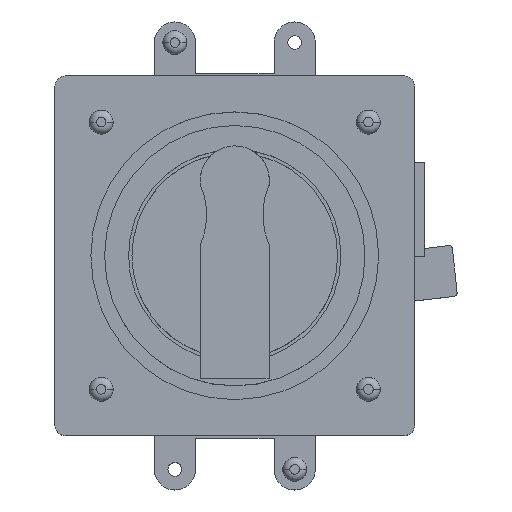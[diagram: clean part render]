
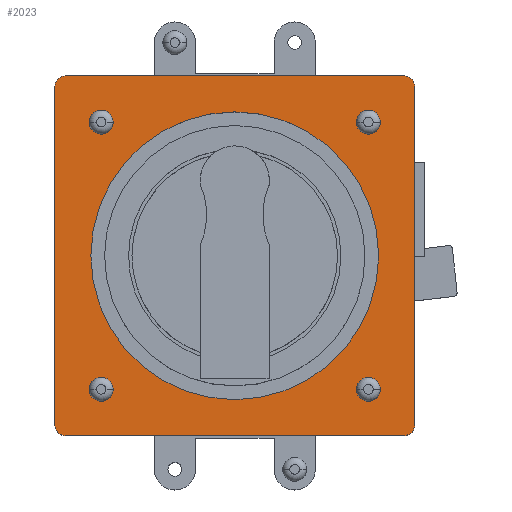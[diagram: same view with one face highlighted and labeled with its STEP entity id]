
A CAD part, top view. The second image highlights one B-rep face of the part: STEP entity #2023.
In plain terms, the highlighted planar face has unit normal (0, 0, 1).
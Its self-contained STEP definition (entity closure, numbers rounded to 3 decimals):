
#1153 = VERTEX_POINT( '', #3273 );
#1185 = EDGE_CURVE( '', #3057, #1779, #3309, .T. );
#1187 = VERTEX_POINT( '', #3311 );
#1195 = VERTEX_POINT( '', #3319 );
#1209 = VERTEX_POINT( '', #3334 );
#1225 = EDGE_CURVE( '', #1299, #2479, #3351, .T. );
#1233 = VERTEX_POINT( '', #3359 );
#1299 = VERTEX_POINT( '', #3427 );
#1331 = VERTEX_POINT( '', #3463 );
#1447 = EDGE_CURVE( '', #2479, #2481, #3587, .T. );
#1509 = EDGE_CURVE( '', #2681, #3033, #3667, .T. );
#1779 = VERTEX_POINT( '', #3960 );
#1873 = VERTEX_POINT( '', #4066 );
#1983 = VERTEX_POINT( '', #4194 );
#1999 = EDGE_CURVE( '', #1195, #1331, #4214, .T. );
#2021 = VERTEX_POINT( '', #4238 );
#2023 = ADVANCED_FACE( '', ( #4240, #4241, #4242, #4243, #4244, #4245 ), #4246, .T. );
#2113 = EDGE_CURVE( '', #2971, #1873, #4350, .T. );
#2127 = EDGE_CURVE( '', #1779, #3057, #4365, .T. );
#2161 = EDGE_CURVE( '', #1233, #1209, #4400, .T. );
#2181 = VERTEX_POINT( '', #4420 );
#2203 = EDGE_CURVE( '', #1209, #1233, #4446, .T. );
#2253 = EDGE_CURVE( '', #2181, #1983, #4505, .T. );
#2341 = EDGE_CURVE( '', #1187, #1195, #4600, .T. );
#2409 = EDGE_CURVE( '', #2021, #1187, #4674, .T. );
#2479 = VERTEX_POINT( '', #4749 );
#2481 = VERTEX_POINT( '', #4751 );
#2561 = EDGE_CURVE( '', #3033, #2681, #4839, .T. );
#2681 = VERTEX_POINT( '', #4974 );
#2781 = EDGE_CURVE( '', #1153, #1299, #5090, .T. );
#2923 = EDGE_CURVE( '', #2481, #2021, #5250, .T. );
#2971 = VERTEX_POINT( '', #5304 );
#3011 = EDGE_CURVE( '', #1331, #1153, #5350, .T. );
#3033 = VERTEX_POINT( '', #5373 );
#3057 = VERTEX_POINT( '', #5398 );
#3085 = EDGE_CURVE( '', #1873, #2971, #5427, .T. );
#3155 = EDGE_CURVE( '', #1983, #2181, #5502, .T. );
#3273 = CARTESIAN_POINT( '', ( 49.5, -52.5, 14.5 ) );
#3309 = CIRCLE( '', #5683, 2. );
#3311 = CARTESIAN_POINT( '', ( 49.5, 52.5, 14.5 ) );
#3319 = CARTESIAN_POINT( '', ( 52.5, 49.5, 14.5 ) );
#3334 = CARTESIAN_POINT( '', ( 37., -39., 14.5 ) );
#3351 = CIRCLE( '', #5735, 3. );
#3359 = CARTESIAN_POINT( '', ( 41., -39., 14.5 ) );
#3427 = CARTESIAN_POINT( '', ( -49.5, -52.5, 14.5 ) );
#3463 = CARTESIAN_POINT( '', ( 52.5, -49.5, 14.5 ) );
#3587 = LINE( '', #6078, #6079 );
#3667 = CIRCLE( '', #6184, 2. );
#3960 = CARTESIAN_POINT( '', ( -41., 39., 14.5 ) );
#4066 = CARTESIAN_POINT( '', ( 42., 0., 14.5 ) );
#4194 = CARTESIAN_POINT( '', ( -37., -39., 14.5 ) );
#4214 = LINE( '', #6913, #6914 );
#4238 = CARTESIAN_POINT( '', ( -49.5, 52.5, 14.5 ) );
#4240 = FACE_BOUND( '', #6947, .T. );
#4241 = FACE_BOUND( '', #6948, .T. );
#4242 = FACE_BOUND( '', #6949, .T. );
#4243 = FACE_BOUND( '', #6950, .T. );
#4244 = FACE_BOUND( '', #6951, .T. );
#4245 = FACE_OUTER_BOUND( '', #6952, .T. );
#4246 = PLANE( '', #6953 );
#4350 = CIRCLE( '', #7089, 42. );
#4365 = CIRCLE( '', #7108, 2. );
#4400 = CIRCLE( '', #7157, 2. );
#4420 = CARTESIAN_POINT( '', ( -41., -39., 14.5 ) );
#4446 = CIRCLE( '', #7217, 2. );
#4505 = CIRCLE( '', #7289, 2. );
#4600 = CIRCLE( '', #7416, 3. );
#4674 = LINE( '', #7513, #7514 );
#4749 = CARTESIAN_POINT( '', ( -52.5, -49.5, 14.5 ) );
#4751 = CARTESIAN_POINT( '', ( -52.5, 49.5, 14.5 ) );
#4839 = CIRCLE( '', #7736, 2. );
#4974 = CARTESIAN_POINT( '', ( 37., 39., 14.5 ) );
#5090 = LINE( '', #8065, #8066 );
#5250 = CIRCLE( '', #8277, 3. );
#5304 = CARTESIAN_POINT( '', ( -42., 0., 14.5 ) );
#5350 = CIRCLE( '', #8405, 3. );
#5373 = CARTESIAN_POINT( '', ( 41., 39., 14.5 ) );
#5398 = CARTESIAN_POINT( '', ( -37., 39., 14.5 ) );
#5427 = CIRCLE( '', #8517, 42. );
#5502 = CIRCLE( '', #8613, 2. );
#5683 = AXIS2_PLACEMENT_3D( '', #8759, #8760, #8761 );
#5735 = AXIS2_PLACEMENT_3D( '', #8799, #8800, #8801 );
#6078 = CARTESIAN_POINT( '', ( -52.5, 49.5, 14.5 ) );
#6079 = VECTOR( '', #9040, 1. );
#6184 = AXIS2_PLACEMENT_3D( '', #9165, #9166, #9167 );
#6913 = CARTESIAN_POINT( '', ( 52.5, -49.5, 14.5 ) );
#6914 = VECTOR( '', #9815, 1. );
#6947 = EDGE_LOOP( '', ( #9846, #9847 ) );
#6948 = EDGE_LOOP( '', ( #9848, #9849 ) );
#6949 = EDGE_LOOP( '', ( #9850, #9851 ) );
#6950 = EDGE_LOOP( '', ( #9852, #9853 ) );
#6951 = EDGE_LOOP( '', ( #9854, #9855 ) );
#6952 = EDGE_LOOP( '', ( #9856, #9857, #9858, #9859, #9860, #9861, #9862, #9863 ) );
#6953 = AXIS2_PLACEMENT_3D( '', #9864, #9865, #9866 );
#7089 = AXIS2_PLACEMENT_3D( '', #10019, #10020, #10021 );
#7108 = AXIS2_PLACEMENT_3D( '', #10034, #10035, #10036 );
#7157 = AXIS2_PLACEMENT_3D( '', #10059, #10060, #10061 );
#7217 = AXIS2_PLACEMENT_3D( '', #10110, #10111, #10112 );
#7289 = AXIS2_PLACEMENT_3D( '', #10195, #10196, #10197 );
#7416 = AXIS2_PLACEMENT_3D( '', #10283, #10284, #10285 );
#7513 = CARTESIAN_POINT( '', ( 49.5, 52.5, 14.5 ) );
#7514 = VECTOR( '', #10381, 1. );
#7736 = AXIS2_PLACEMENT_3D( '', #10541, #10542, #10543 );
#8065 = CARTESIAN_POINT( '', ( -49.5, -52.5, 14.5 ) );
#8066 = VECTOR( '', #10878, 1. );
#8277 = AXIS2_PLACEMENT_3D( '', #11081, #11082, #11083 );
#8405 = AXIS2_PLACEMENT_3D( '', #11218, #11219, #11220 );
#8517 = AXIS2_PLACEMENT_3D( '', #11282, #11283, #11284 );
#8613 = AXIS2_PLACEMENT_3D( '', #11361, #11362, #11363 );
#8759 = CARTESIAN_POINT( '', ( -39., 39., 14.5 ) );
#8760 = DIRECTION( '', ( 0., 0., -1. ) );
#8761 = DIRECTION( '', ( 1., 0., 0. ) );
#8799 = CARTESIAN_POINT( '', ( -49.5, -49.5, 14.5 ) );
#8800 = DIRECTION( '', ( 0., 0., -1. ) );
#8801 = DIRECTION( '', ( -1., 0., 0. ) );
#9040 = DIRECTION( '', ( 0., 1., 0. ) );
#9165 = CARTESIAN_POINT( '', ( 39., 39., 14.5 ) );
#9166 = DIRECTION( '', ( 0., 0., -1. ) );
#9167 = DIRECTION( '', ( 1., 0., 0. ) );
#9815 = DIRECTION( '', ( 0., -1., 0. ) );
#9846 = ORIENTED_EDGE( '', *, *, #2161, .T. );
#9847 = ORIENTED_EDGE( '', *, *, #2203, .T. );
#9848 = ORIENTED_EDGE( '', *, *, #3155, .T. );
#9849 = ORIENTED_EDGE( '', *, *, #2253, .T. );
#9850 = ORIENTED_EDGE( '', *, *, #2561, .T. );
#9851 = ORIENTED_EDGE( '', *, *, #1509, .T. );
#9852 = ORIENTED_EDGE( '', *, *, #1185, .T. );
#9853 = ORIENTED_EDGE( '', *, *, #2127, .T. );
#9854 = ORIENTED_EDGE( '', *, *, #3085, .T. );
#9855 = ORIENTED_EDGE( '', *, *, #2113, .T. );
#9856 = ORIENTED_EDGE( '', *, *, #1447, .F. );
#9857 = ORIENTED_EDGE( '', *, *, #1225, .F. );
#9858 = ORIENTED_EDGE( '', *, *, #2781, .F. );
#9859 = ORIENTED_EDGE( '', *, *, #3011, .F. );
#9860 = ORIENTED_EDGE( '', *, *, #1999, .F. );
#9861 = ORIENTED_EDGE( '', *, *, #2341, .F. );
#9862 = ORIENTED_EDGE( '', *, *, #2409, .F. );
#9863 = ORIENTED_EDGE( '', *, *, #2923, .F. );
#9864 = CARTESIAN_POINT( '', ( 0., 0., 14.5 ) );
#9865 = DIRECTION( '', ( 0., 0., 1. ) );
#9866 = DIRECTION( '', ( 1., 0., 0. ) );
#10019 = CARTESIAN_POINT( '', ( 0., 0., 14.5 ) );
#10020 = DIRECTION( '', ( 0., 0., -1. ) );
#10021 = DIRECTION( '', ( 1., 0., 0. ) );
#10034 = CARTESIAN_POINT( '', ( -39., 39., 14.5 ) );
#10035 = DIRECTION( '', ( 0., 0., -1. ) );
#10036 = DIRECTION( '', ( 1., 0., 0. ) );
#10059 = CARTESIAN_POINT( '', ( 39., -39., 14.5 ) );
#10060 = DIRECTION( '', ( 0., 0., -1. ) );
#10061 = DIRECTION( '', ( 1., 0., 0. ) );
#10110 = CARTESIAN_POINT( '', ( 39., -39., 14.5 ) );
#10111 = DIRECTION( '', ( 0., 0., -1. ) );
#10112 = DIRECTION( '', ( 1., 0., 0. ) );
#10195 = CARTESIAN_POINT( '', ( -39., -39., 14.5 ) );
#10196 = DIRECTION( '', ( 0., 0., -1. ) );
#10197 = DIRECTION( '', ( 1., 0., 0. ) );
#10283 = CARTESIAN_POINT( '', ( 49.5, 49.5, 14.5 ) );
#10284 = DIRECTION( '', ( 0., 0., -1. ) );
#10285 = DIRECTION( '', ( 1., 0., 0. ) );
#10381 = DIRECTION( '', ( 1., 0., 0. ) );
#10541 = CARTESIAN_POINT( '', ( 39., 39., 14.5 ) );
#10542 = DIRECTION( '', ( 0., 0., -1. ) );
#10543 = DIRECTION( '', ( 1., 0., 0. ) );
#10878 = DIRECTION( '', ( -1., 0., 0. ) );
#11081 = CARTESIAN_POINT( '', ( -49.5, 49.5, 14.5 ) );
#11082 = DIRECTION( '', ( 0., 0., -1. ) );
#11083 = DIRECTION( '', ( 0., 1., 0. ) );
#11218 = CARTESIAN_POINT( '', ( 49.5, -49.5, 14.5 ) );
#11219 = DIRECTION( '', ( 0., 0., -1. ) );
#11220 = DIRECTION( '', ( 0., -1., 0. ) );
#11282 = CARTESIAN_POINT( '', ( 0., 0., 14.5 ) );
#11283 = DIRECTION( '', ( 0., 0., -1. ) );
#11284 = DIRECTION( '', ( 1., 0., 0. ) );
#11361 = CARTESIAN_POINT( '', ( -39., -39., 14.5 ) );
#11362 = DIRECTION( '', ( 0., 0., -1. ) );
#11363 = DIRECTION( '', ( 1., 0., 0. ) );
